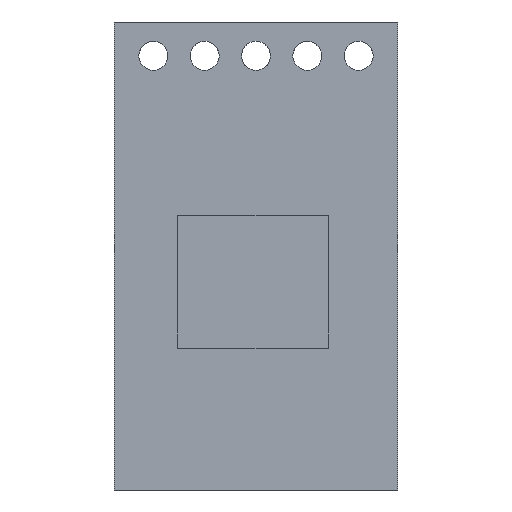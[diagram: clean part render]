
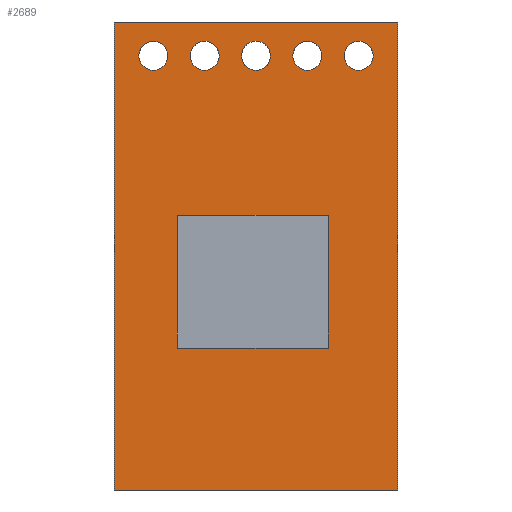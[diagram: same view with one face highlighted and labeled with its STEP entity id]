
A CAD part, front view. The second image highlights one B-rep face of the part: STEP entity #2689.
In plain terms, the highlighted planar face has unit normal (0, -1, 0).
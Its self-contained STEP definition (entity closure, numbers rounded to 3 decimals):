
#2689 = ADVANCED_FACE('',(#2690,#2724,#2744,#2764,#2784,#2804,#2824),
  #2858,.F.);
#2690 = FACE_BOUND('',#2691,.T.);
#2691 = EDGE_LOOP('',(#2692,#2702,#2710,#2718));
#2692 = ORIENTED_EDGE('',*,*,#2693,.F.);
#2693 = EDGE_CURVE('',#2694,#2696,#2698,.T.);
#2694 = VERTEX_POINT('',#2695);
#2695 = CARTESIAN_POINT('',(-4.7,-0.5,-7.75));
#2696 = VERTEX_POINT('',#2697);
#2697 = CARTESIAN_POINT('',(-4.7,-0.5,7.75));
#2698 = LINE('',#2699,#2700);
#2699 = CARTESIAN_POINT('',(-4.7,-0.5,-7.75));
#2700 = VECTOR('',#2701,1.);
#2701 = DIRECTION('',(0.,0.,1.));
#2702 = ORIENTED_EDGE('',*,*,#2703,.F.);
#2703 = EDGE_CURVE('',#2704,#2694,#2706,.T.);
#2704 = VERTEX_POINT('',#2705);
#2705 = CARTESIAN_POINT('',(4.7,-0.5,-7.75));
#2706 = LINE('',#2707,#2708);
#2707 = CARTESIAN_POINT('',(-4.7,-0.5,-7.75));
#2708 = VECTOR('',#2709,1.);
#2709 = DIRECTION('',(-1.,-0.,-0.));
#2710 = ORIENTED_EDGE('',*,*,#2711,.F.);
#2711 = EDGE_CURVE('',#2712,#2704,#2714,.T.);
#2712 = VERTEX_POINT('',#2713);
#2713 = CARTESIAN_POINT('',(4.7,-0.5,7.75));
#2714 = LINE('',#2715,#2716);
#2715 = CARTESIAN_POINT('',(4.7,-0.5,-7.75));
#2716 = VECTOR('',#2717,1.);
#2717 = DIRECTION('',(0.,-0.,-1.));
#2718 = ORIENTED_EDGE('',*,*,#2719,.F.);
#2719 = EDGE_CURVE('',#2696,#2712,#2720,.T.);
#2720 = LINE('',#2721,#2722);
#2721 = CARTESIAN_POINT('',(-4.7,-0.5,7.75));
#2722 = VECTOR('',#2723,1.);
#2723 = DIRECTION('',(1.,0.,0.));
#2724 = FACE_BOUND('',#2725,.T.);
#2725 = EDGE_LOOP('',(#2726,#2737));
#2726 = ORIENTED_EDGE('',*,*,#2727,.F.);
#2727 = EDGE_CURVE('',#2728,#2730,#2732,.T.);
#2728 = VERTEX_POINT('',#2729);
#2729 = CARTESIAN_POINT('',(-3.4,-0.5,6.15));
#2730 = VERTEX_POINT('',#2731);
#2731 = CARTESIAN_POINT('',(-3.4,-0.5,7.11));
#2732 = CIRCLE('',#2733,0.48);
#2733 = AXIS2_PLACEMENT_3D('',#2734,#2735,#2736);
#2734 = CARTESIAN_POINT('',(-3.4,-0.5,6.63));
#2735 = DIRECTION('',(0.,-1.,0.));
#2736 = DIRECTION('',(0.,0.,-1.));
#2737 = ORIENTED_EDGE('',*,*,#2738,.F.);
#2738 = EDGE_CURVE('',#2730,#2728,#2739,.T.);
#2739 = CIRCLE('',#2740,0.48);
#2740 = AXIS2_PLACEMENT_3D('',#2741,#2742,#2743);
#2741 = CARTESIAN_POINT('',(-3.4,-0.5,6.63));
#2742 = DIRECTION('',(0.,-1.,0.));
#2743 = DIRECTION('',(0.,0.,-1.));
#2744 = FACE_BOUND('',#2745,.T.);
#2745 = EDGE_LOOP('',(#2746,#2757));
#2746 = ORIENTED_EDGE('',*,*,#2747,.F.);
#2747 = EDGE_CURVE('',#2748,#2750,#2752,.T.);
#2748 = VERTEX_POINT('',#2749);
#2749 = CARTESIAN_POINT('',(-1.7,-0.5,6.15));
#2750 = VERTEX_POINT('',#2751);
#2751 = CARTESIAN_POINT('',(-1.7,-0.5,7.11));
#2752 = CIRCLE('',#2753,0.48);
#2753 = AXIS2_PLACEMENT_3D('',#2754,#2755,#2756);
#2754 = CARTESIAN_POINT('',(-1.7,-0.5,6.63));
#2755 = DIRECTION('',(0.,-1.,0.));
#2756 = DIRECTION('',(0.,0.,-1.));
#2757 = ORIENTED_EDGE('',*,*,#2758,.F.);
#2758 = EDGE_CURVE('',#2750,#2748,#2759,.T.);
#2759 = CIRCLE('',#2760,0.48);
#2760 = AXIS2_PLACEMENT_3D('',#2761,#2762,#2763);
#2761 = CARTESIAN_POINT('',(-1.7,-0.5,6.63));
#2762 = DIRECTION('',(0.,-1.,0.));
#2763 = DIRECTION('',(0.,0.,-1.));
#2764 = FACE_BOUND('',#2765,.T.);
#2765 = EDGE_LOOP('',(#2766,#2777));
#2766 = ORIENTED_EDGE('',*,*,#2767,.F.);
#2767 = EDGE_CURVE('',#2768,#2770,#2772,.T.);
#2768 = VERTEX_POINT('',#2769);
#2769 = CARTESIAN_POINT('',(3.4,-0.5,6.15));
#2770 = VERTEX_POINT('',#2771);
#2771 = CARTESIAN_POINT('',(3.4,-0.5,7.11));
#2772 = CIRCLE('',#2773,0.48);
#2773 = AXIS2_PLACEMENT_3D('',#2774,#2775,#2776);
#2774 = CARTESIAN_POINT('',(3.4,-0.5,6.63));
#2775 = DIRECTION('',(0.,-1.,0.));
#2776 = DIRECTION('',(0.,0.,-1.));
#2777 = ORIENTED_EDGE('',*,*,#2778,.F.);
#2778 = EDGE_CURVE('',#2770,#2768,#2779,.T.);
#2779 = CIRCLE('',#2780,0.48);
#2780 = AXIS2_PLACEMENT_3D('',#2781,#2782,#2783);
#2781 = CARTESIAN_POINT('',(3.4,-0.5,6.63));
#2782 = DIRECTION('',(0.,-1.,0.));
#2783 = DIRECTION('',(0.,0.,-1.));
#2784 = FACE_BOUND('',#2785,.T.);
#2785 = EDGE_LOOP('',(#2786,#2797));
#2786 = ORIENTED_EDGE('',*,*,#2787,.F.);
#2787 = EDGE_CURVE('',#2788,#2790,#2792,.T.);
#2788 = VERTEX_POINT('',#2789);
#2789 = CARTESIAN_POINT('',(1.7,-0.5,6.15));
#2790 = VERTEX_POINT('',#2791);
#2791 = CARTESIAN_POINT('',(1.7,-0.5,7.11));
#2792 = CIRCLE('',#2793,0.48);
#2793 = AXIS2_PLACEMENT_3D('',#2794,#2795,#2796);
#2794 = CARTESIAN_POINT('',(1.7,-0.5,6.63));
#2795 = DIRECTION('',(0.,-1.,0.));
#2796 = DIRECTION('',(0.,0.,-1.));
#2797 = ORIENTED_EDGE('',*,*,#2798,.F.);
#2798 = EDGE_CURVE('',#2790,#2788,#2799,.T.);
#2799 = CIRCLE('',#2800,0.48);
#2800 = AXIS2_PLACEMENT_3D('',#2801,#2802,#2803);
#2801 = CARTESIAN_POINT('',(1.7,-0.5,6.63));
#2802 = DIRECTION('',(0.,-1.,0.));
#2803 = DIRECTION('',(0.,0.,-1.));
#2804 = FACE_BOUND('',#2805,.T.);
#2805 = EDGE_LOOP('',(#2806,#2817));
#2806 = ORIENTED_EDGE('',*,*,#2807,.F.);
#2807 = EDGE_CURVE('',#2808,#2810,#2812,.T.);
#2808 = VERTEX_POINT('',#2809);
#2809 = CARTESIAN_POINT('',(0.,-0.5,6.15));
#2810 = VERTEX_POINT('',#2811);
#2811 = CARTESIAN_POINT('',(0.,-0.5,7.11));
#2812 = CIRCLE('',#2813,0.48);
#2813 = AXIS2_PLACEMENT_3D('',#2814,#2815,#2816);
#2814 = CARTESIAN_POINT('',(0.,-0.5,6.63));
#2815 = DIRECTION('',(0.,-1.,0.));
#2816 = DIRECTION('',(0.,0.,-1.));
#2817 = ORIENTED_EDGE('',*,*,#2818,.F.);
#2818 = EDGE_CURVE('',#2810,#2808,#2819,.T.);
#2819 = CIRCLE('',#2820,0.48);
#2820 = AXIS2_PLACEMENT_3D('',#2821,#2822,#2823);
#2821 = CARTESIAN_POINT('',(0.,-0.5,6.63));
#2822 = DIRECTION('',(0.,-1.,0.));
#2823 = DIRECTION('',(0.,0.,-1.));
#2824 = FACE_BOUND('',#2825,.T.);
#2825 = EDGE_LOOP('',(#2826,#2836,#2844,#2852));
#2826 = ORIENTED_EDGE('',*,*,#2827,.F.);
#2827 = EDGE_CURVE('',#2828,#2830,#2832,.T.);
#2828 = VERTEX_POINT('',#2829);
#2829 = CARTESIAN_POINT('',(-2.6,-0.5,1.35));
#2830 = VERTEX_POINT('',#2831);
#2831 = CARTESIAN_POINT('',(-2.6,-0.5,-3.05));
#2832 = LINE('',#2833,#2834);
#2833 = CARTESIAN_POINT('',(-2.6,-0.5,1.35));
#2834 = VECTOR('',#2835,1.);
#2835 = DIRECTION('',(0.,0.,-1.));
#2836 = ORIENTED_EDGE('',*,*,#2837,.F.);
#2837 = EDGE_CURVE('',#2838,#2828,#2840,.T.);
#2838 = VERTEX_POINT('',#2839);
#2839 = CARTESIAN_POINT('',(2.4,-0.5,1.35));
#2840 = LINE('',#2841,#2842);
#2841 = CARTESIAN_POINT('',(-2.6,-0.5,1.35));
#2842 = VECTOR('',#2843,1.);
#2843 = DIRECTION('',(-1.,0.,0.));
#2844 = ORIENTED_EDGE('',*,*,#2845,.F.);
#2845 = EDGE_CURVE('',#2846,#2838,#2848,.T.);
#2846 = VERTEX_POINT('',#2847);
#2847 = CARTESIAN_POINT('',(2.4,-0.5,-3.05));
#2848 = LINE('',#2849,#2850);
#2849 = CARTESIAN_POINT('',(2.4,-0.5,1.35));
#2850 = VECTOR('',#2851,1.);
#2851 = DIRECTION('',(0.,0.,1.));
#2852 = ORIENTED_EDGE('',*,*,#2853,.F.);
#2853 = EDGE_CURVE('',#2830,#2846,#2854,.T.);
#2854 = LINE('',#2855,#2856);
#2855 = CARTESIAN_POINT('',(-2.6,-0.5,-3.05));
#2856 = VECTOR('',#2857,1.);
#2857 = DIRECTION('',(1.,0.,0.));
#2858 = PLANE('',#2859);
#2859 = AXIS2_PLACEMENT_3D('',#2860,#2861,#2862);
#2860 = CARTESIAN_POINT('',(-4.7,-0.5,7.75));
#2861 = DIRECTION('',(0.,1.,0.));
#2862 = DIRECTION('',(0.,-0.,1.));
